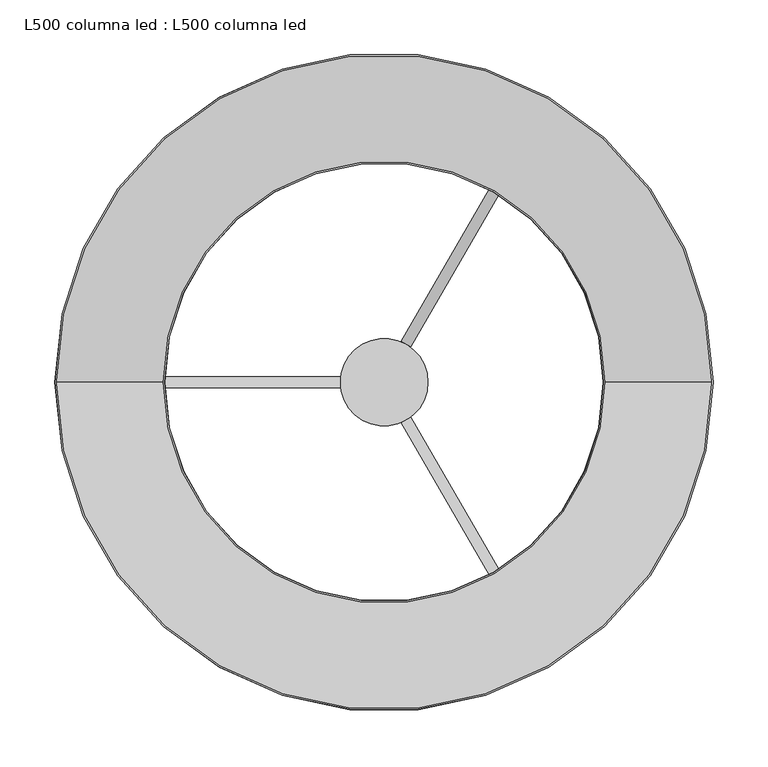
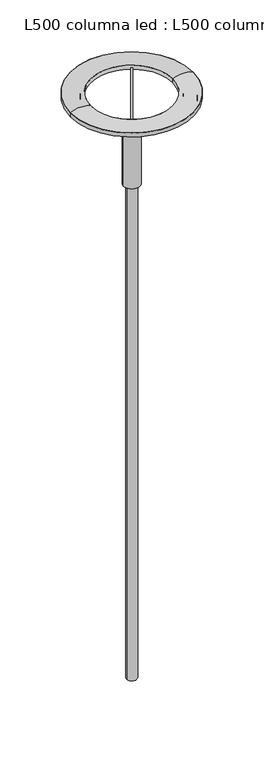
"""IFC4 building model written with IfcOpenShell, lengths in millimetres: light fixture geometry, L500 columna led : L500 columna led."""

from ifc_helpers import new_model, si_unit, point, frame, origin, origin_with_axes, origin_2d, place, context, project, spatial, polyline, circle_curve, ellipse_curve, trimmed, segment, composite_curve, outline, extrude, source, transform, mapped, element, save
from ifc_brep_helpers import plane_surface, revolved_surface, advanced_brep


def l500_columna_led_l500_columna_led_3afb5394(model_context):
    return source(origin(), model_context, "Body", "SolidModel", [
        extrude(outline(composite_curve([segment(trimmed(circle_curve(origin_2d(), 25.0), [point((-25.0, 0.0))], [point((25.0, 0.0))], False, "CARTESIAN"), True, "CONTINUOUS"), segment(trimmed(circle_curve(origin_2d(), 25.0), [point((25.0, 0.0))], [point((-25.0, 0.0))], False, "CARTESIAN"), True, "CONTINUOUS")], self_intersect=False)), origin_with_axes(), (0.0, 0.0, 1.0), 2550.0),
        extrude(outline(polyline([(226.27417, 0.0), (0.0, 0.0), (-14.1421356, 14.1421356), (226.27417, 14.1421356), (219.2031022, 7.0710678), (226.27417, 0.0)])), frame((24.330127, 32.1410162, 2850.0), z_axis=(-0.8660254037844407, 0.49999999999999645, 0.0), x_axis=(0.3535533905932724, 0.6123724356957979, 0.7071067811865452)), (0.0, 0.0, 1.0), 10.0),
        extrude(outline(polyline([(3010.0, -200.0), (3000.0, -200.0), (3000.0, -210.0), (2830.0, -40.0), (2850.0, -40.0), (3010.0, -200.0)])), frame((0.0, -5.0, 0.0), z_axis=(0.0, 1.0, 0.0), x_axis=(0.0, 0.0, 1.0)), (0.0, 0.0, 1.0), 10.0),
        extrude(outline(polyline([(226.27417, 0.0), (0.0, 0.0), (-14.1421356, 14.1421356), (226.27417, 14.1421356), (219.2031022, 7.0710678), (226.27417, 0.0)])), frame((15.669873, -37.1410162, 2850.0), z_axis=(0.8660254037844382, 0.5000000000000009, 0.0), x_axis=(0.3535533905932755, -0.6123724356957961, 0.7071067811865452)), (0.0, 0.0, 1.0), 10.0),
        extrude(outline(composite_curve([segment(trimmed(circle_curve(origin_2d(), 40.0), [point((-40.0, 0.0))], [point((40.0, 0.0))], False, "CARTESIAN"), True, "CONTINUOUS"), segment(trimmed(circle_curve(origin_2d(), 40.0), [point((40.0, 0.0))], [point((-40.0, 0.0))], False, "CARTESIAN"), True, "CONTINUOUS")], self_intersect=False)), frame((0.0, 0.0, 2550.0), z_axis=(0.0, 0.0, 1.0), x_axis=(1.0, 0.0, 0.0)), (0.0, 0.0, 1.0), 300.0),
        extrude(outline(composite_curve([segment(polyline([(-131.2504318, -247.3324163), (-101.2260508, -195.3286631)]), True, "CONTINUOUS"), segment(trimmed(circle_curve(origin_2d(), 220.0), [point((-101.2260508, -195.3286631))], [point((219.7726098, -10.0))], True, "CARTESIAN"), True, "CONTINUOUS"), segment(polyline([(219.7726098, -10.0), (279.8213716, -10.0)]), True, "CONTINUOUS"), segment(trimmed(circle_curve(origin_2d(), 280.0), [point((279.8213716, -10.0))], [point((-131.2504318, -247.3324163))], False, "CARTESIAN"), True, "CONTINUOUS")], self_intersect=False)), frame((0.0, 0.0, 3000.0), z_axis=(0.0, 0.0, 1.0), x_axis=(1.0, 0.0, 0.0)), (0.0, 0.0, 1.0), 10.0),
        extrude(outline(composite_curve([segment(polyline([(-148.5709398, 237.3324163), (-118.5465589, 185.3286631)]), True, "CONTINUOUS"), segment(trimmed(circle_curve(origin_2d(), 220.0), [point((-118.5465589, 185.3286631))], [point((-118.5465589, -185.3286631))], True, "CARTESIAN"), True, "CONTINUOUS"), segment(polyline([(-118.5465589, -185.3286631), (-148.5709398, -237.3324163)]), True, "CONTINUOUS"), segment(trimmed(circle_curve(origin_2d(), 280.0), [point((-148.5709398, -237.3324163))], [point((-148.5709398, 237.3324163))], False, "CARTESIAN"), True, "CONTINUOUS")], self_intersect=False)), frame((0.0, 0.0, 3000.0), z_axis=(0.0, 0.0, 1.0), x_axis=(1.0, 0.0, 0.0)), (0.0, 0.0, 1.0), 10.0),
        extrude(outline(composite_curve([segment(polyline([(279.8213716, 10.0), (219.7726098, 10.0)]), True, "CONTINUOUS"), segment(trimmed(circle_curve(origin_2d(), 220.0), [point((219.7726098, 10.0))], [point((-101.2260508, 195.3286631))], True, "CARTESIAN"), True, "CONTINUOUS"), segment(polyline([(-101.2260508, 195.3286631), (-131.2504318, 247.3324163)]), True, "CONTINUOUS"), segment(trimmed(circle_curve(origin_2d(), 280.0), [point((-131.2504318, 247.3324163))], [point((279.8213716, 10.0))], False, "CARTESIAN"), True, "CONTINUOUS")], self_intersect=False)), frame((0.0, 0.0, 3000.0), z_axis=(0.0, 0.0, 1.0), x_axis=(1.0, 0.0, 0.0)), (0.0, 0.0, 1.0), 10.0),
        extrude(outline(composite_curve([segment(trimmed(circle_curve(origin_2d(), 300.0), [point((-300.0, 0.0))], [point((300.0, 0.0))], False, "CARTESIAN"), True, "CONTINUOUS"), segment(trimmed(circle_curve(origin_2d(), 300.0), [point((300.0, 0.0))], [point((-300.0, 0.0))], False, "CARTESIAN"), True, "CONTINUOUS")], self_intersect=False), holes=[composite_curve([segment(trimmed(circle_curve(origin_2d(), 200.0), [point((-200.0, 0.0))], [point((200.0, 0.0))], True, "CARTESIAN"), True, "CONTINUOUS"), segment(trimmed(circle_curve(origin_2d(), 200.0), [point((200.0, 0.0))], [point((-200.0, 0.0))], True, "CARTESIAN"), True, "CONTINUOUS")], self_intersect=False), composite_curve([segment(trimmed(circle_curve(origin_2d(), 280.0), [point((-131.2504318, -247.3324163))], [point((279.8213716, -10.0))], True, "CARTESIAN"), True, "CONTINUOUS"), segment(polyline([(279.8213716, -10.0), (219.7726098, -10.0)]), True, "CONTINUOUS"), segment(trimmed(circle_curve(origin_2d(), 220.0), [point((219.7726098, -10.0))], [point((-101.2260508, -195.3286631))], False, "CARTESIAN"), True, "CONTINUOUS"), segment(polyline([(-101.2260508, -195.3286631), (-131.2504318, -247.3324163)]), True, "CONTINUOUS")], self_intersect=False), composite_curve([segment(trimmed(circle_curve(origin_2d(), 280.0), [point((-148.5709398, 237.3324163))], [point((-148.5709398, -237.3324163))], True, "CARTESIAN"), True, "CONTINUOUS"), segment(polyline([(-148.5709398, -237.3324163), (-118.5465589, -185.3286631)]), True, "CONTINUOUS"), segment(trimmed(circle_curve(origin_2d(), 220.0), [point((-118.5465589, -185.3286631))], [point((-118.5465589, 185.3286631))], False, "CARTESIAN"), True, "CONTINUOUS"), segment(polyline([(-118.5465589, 185.3286631), (-148.5709398, 237.3324163)]), True, "CONTINUOUS")], self_intersect=False), composite_curve([segment(trimmed(circle_curve(origin_2d(), 280.0), [point((279.8213716, 10.0))], [point((-131.2504318, 247.3324163))], True, "CARTESIAN"), True, "CONTINUOUS"), segment(polyline([(-131.2504318, 247.3324163), (-101.2260508, 195.3286631)]), True, "CONTINUOUS"), segment(trimmed(circle_curve(origin_2d(), 220.0), [point((-101.2260508, 195.3286631))], [point((219.7726098, 10.0))], False, "CARTESIAN"), True, "CONTINUOUS"), segment(polyline([(219.7726098, 10.0), (279.8213716, 10.0)]), True, "CONTINUOUS")], self_intersect=False)]), frame((0.0, 0.0, 3000.0), z_axis=(0.0, 0.0, 1.0), x_axis=(1.0, 0.0, 0.0)), (0.0, 0.0, 1.0), 20.0),
        advanced_brep(
        [(-200.1786284, 0.0, 3020.0), (-300.1786284, 0.0, 3020.0), (300.0, 0.0, 3020.0), (200.0, 0.0, 3020.0)],
        [
            (0, 1, circle_curve(frame((-250.1786284, 0.0, 2911.6848638), z_axis=(0.0, -1.0, 0.0), x_axis=(-1.0, 0.0, 0.0)), 119.2986535)),
            (1, 2, circle_curve(frame((-0.0893142, 0.0, 3020.0), z_axis=(0.0, 0.0, 1.0), x_axis=(1.0, 0.0, 0.0)), 300.0893142)),
            (2, 3, circle_curve(frame((250.0, 0.0, 2911.6848638), z_axis=(0.0, -1.0, 0.0), x_axis=(1.0, 0.0, 0.0)), 119.2986535)),
            (3, 0, circle_curve(frame((-0.0893142, 0.0, 3020.0), z_axis=(0.0, 0.0, -1.0), x_axis=(1.0, 0.0, 0.0)), 200.0893142)),
            (2, 1, circle_curve(frame((-0.0893142, 0.0, 3020.0), z_axis=(0.0, 0.0, 1.0), x_axis=(1.0, 0.0, 0.0)), 300.0893142)),
            (0, 3, circle_curve(frame((-0.0893142, 0.0, 3020.0), z_axis=(0.0, 0.0, -1.0), x_axis=(1.0, 0.0, 0.0)), 200.0893142)),
            (1, 0),
            (3, 2),
        ],
        [
            revolved_surface(trimmed(ellipse_curve(frame((250.0, 0.0, 2911.6848638), z_axis=(0.0, -1.0, 0.0), x_axis=(1.0, 0.0, 0.0)), 119.2986535, 119.2986535), [point((300.0, 0.0, 3020.0))], [point((200.0, 0.0, 3020.0))], True, "CARTESIAN"), (-0.0893142, 0.0, 2772.4894147), (0.0, 0.0, 1.0)),
            plane_surface(frame((-0.0893142, 0.0, 3020.0), z_axis=(0.0, 0.0, -1.0), x_axis=(1.0, 0.0, 0.0))),
        ],
        [
            (0, [[1, 2, 3, 4]]),
            (0, [[-3, 5, -1, 6]]),
            (1, [[7, -4, 8, -2]]),
            (1, [[-8, -6, -7, -5]]),
        ],
    ),
    ])


if __name__ == "__main__":
    model = new_model("IFC4")
    model_context = context("Model", 3, world=origin())
    ifc_project = project(units=[si_unit("LENGTHUNIT", "METRE", prefix="MILLI")], contexts=[model_context])
    site = spatial("IfcSite", under=ifc_project)
    building = spatial("IfcBuilding", under=site)
    placement = place(None, origin())
    l500_columna_led_l500_columna_led_shape = l500_columna_led_l500_columna_led_3afb5394(model_context)
    element("IfcLightFixture", 1, ObjectType="L500 columna led : L500 columna led", at=placement, inside=building, context=model_context, shape_type="MappedRepresentation", body=[
        mapped(l500_columna_led_l500_columna_led_shape, transform((0.0, 0.0, 0.0), x_axis=(1.0, 0.0, 0.0), y_axis=(0.0, 1.0, 0.0), z_axis=(0.0, 0.0, 1.0))),
    ])
    save(model, "model.ifc")
